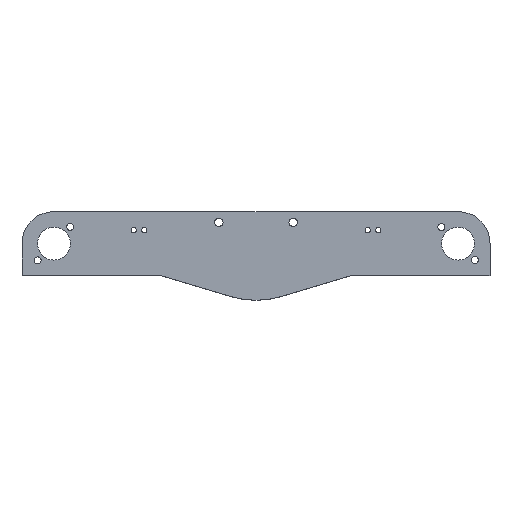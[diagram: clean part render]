
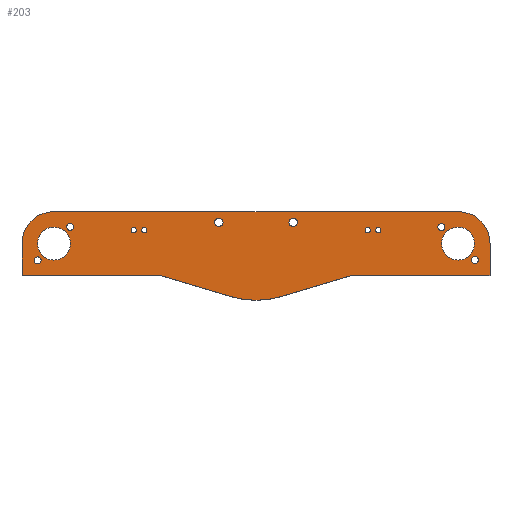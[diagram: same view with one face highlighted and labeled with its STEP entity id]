
A CAD part, top view. The second image highlights one B-rep face of the part: STEP entity #203.
In plain terms, the highlighted planar face has unit normal (0, 0, 1).
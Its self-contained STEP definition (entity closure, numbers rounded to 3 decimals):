
#32 = VERTEX_POINT('',#33);
#33 = CARTESIAN_POINT('',(0.,0.,30.));
#39 = EDGE_CURVE('',#32,#40,#42,.T.);
#40 = VERTEX_POINT('',#41);
#41 = CARTESIAN_POINT('',(0.,30.,30.));
#42 = LINE('',#43,#44);
#43 = CARTESIAN_POINT('',(0.,0.,30.));
#44 = VECTOR('',#45,1.);
#45 = DIRECTION('',(0.,1.,0.));
#128 = VERTEX_POINT('',#129);
#129 = CARTESIAN_POINT('',(30.,60.,30.));
#135 = EDGE_CURVE('',#40,#128,#136,.T.);
#136 = CIRCLE('',#137,30.);
#137 = AXIS2_PLACEMENT_3D('',#138,#139,#140);
#138 = CARTESIAN_POINT('',(30.,30.,30.));
#139 = DIRECTION('',(-0.,-0.,-1.));
#140 = DIRECTION('',(0.,-1.,0.));
#162 = VERTEX_POINT('',#163);
#163 = CARTESIAN_POINT('',(130.,0.,30.));
#169 = EDGE_CURVE('',#162,#32,#170,.T.);
#170 = LINE('',#171,#172);
#171 = CARTESIAN_POINT('',(130.,0.,30.));
#172 = VECTOR('',#173,1.);
#173 = DIRECTION('',(-1.,0.,0.));
#203 = ADVANCED_FACE('',(#204,#265,#276,#287,#298,#309,#320,#331,#342,
    #353,#364,#375,#386),#397,.T.);
#204 = FACE_BOUND('',#205,.T.);
#205 = EDGE_LOOP('',(#206,#207,#208,#216,#225,#233,#241,#249,#258,#264)
  );
#206 = ORIENTED_EDGE('',*,*,#39,.F.);
#207 = ORIENTED_EDGE('',*,*,#169,.F.);
#208 = ORIENTED_EDGE('',*,*,#209,.F.);
#209 = EDGE_CURVE('',#210,#162,#212,.T.);
#210 = VERTEX_POINT('',#211);
#211 = CARTESIAN_POINT('',(197.171,-20.,30.));
#212 = LINE('',#213,#214);
#213 = CARTESIAN_POINT('',(197.171,-20.,30.));
#214 = VECTOR('',#215,1.);
#215 = DIRECTION('',(-0.958,0.285,0.));
#216 = ORIENTED_EDGE('',*,*,#217,.T.);
#217 = EDGE_CURVE('',#210,#218,#220,.T.);
#218 = VERTEX_POINT('',#219);
#219 = CARTESIAN_POINT('',(242.829,-20.,30.));
#220 = CIRCLE('',#221,80.);
#221 = AXIS2_PLACEMENT_3D('',#222,#223,#224);
#222 = CARTESIAN_POINT('',(220.,56.673,30.));
#223 = DIRECTION('',(0.,0.,1.));
#224 = DIRECTION('',(1.,0.,0.));
#225 = ORIENTED_EDGE('',*,*,#226,.F.);
#226 = EDGE_CURVE('',#227,#218,#229,.T.);
#227 = VERTEX_POINT('',#228);
#228 = CARTESIAN_POINT('',(310.,0.,30.));
#229 = LINE('',#230,#231);
#230 = CARTESIAN_POINT('',(310.,0.,30.));
#231 = VECTOR('',#232,1.);
#232 = DIRECTION('',(-0.958,-0.285,0.));
#233 = ORIENTED_EDGE('',*,*,#234,.F.);
#234 = EDGE_CURVE('',#235,#227,#237,.T.);
#235 = VERTEX_POINT('',#236);
#236 = CARTESIAN_POINT('',(440.,0.,30.));
#237 = LINE('',#238,#239);
#238 = CARTESIAN_POINT('',(440.,0.,30.));
#239 = VECTOR('',#240,1.);
#240 = DIRECTION('',(-1.,0.,0.));
#241 = ORIENTED_EDGE('',*,*,#242,.F.);
#242 = EDGE_CURVE('',#243,#235,#245,.T.);
#243 = VERTEX_POINT('',#244);
#244 = CARTESIAN_POINT('',(440.,30.,30.));
#245 = LINE('',#246,#247);
#246 = CARTESIAN_POINT('',(440.,60.,30.));
#247 = VECTOR('',#248,1.);
#248 = DIRECTION('',(0.,-1.,0.));
#249 = ORIENTED_EDGE('',*,*,#250,.F.);
#250 = EDGE_CURVE('',#251,#243,#253,.T.);
#251 = VERTEX_POINT('',#252);
#252 = CARTESIAN_POINT('',(410.,60.,30.));
#253 = CIRCLE('',#254,30.);
#254 = AXIS2_PLACEMENT_3D('',#255,#256,#257);
#255 = CARTESIAN_POINT('',(410.,30.,30.));
#256 = DIRECTION('',(-0.,-0.,-1.));
#257 = DIRECTION('',(0.,-1.,0.));
#258 = ORIENTED_EDGE('',*,*,#259,.F.);
#259 = EDGE_CURVE('',#128,#251,#260,.T.);
#260 = LINE('',#261,#262);
#261 = CARTESIAN_POINT('',(0.,60.,30.));
#262 = VECTOR('',#263,1.);
#263 = DIRECTION('',(1.,0.,0.));
#264 = ORIENTED_EDGE('',*,*,#135,.F.);
#265 = FACE_BOUND('',#266,.T.);
#266 = EDGE_LOOP('',(#267));
#267 = ORIENTED_EDGE('',*,*,#268,.F.);
#268 = EDGE_CURVE('',#269,#269,#271,.T.);
#269 = VERTEX_POINT('',#270);
#270 = CARTESIAN_POINT('',(11.395,14.196,30.));
#271 = CIRCLE('',#272,3.3);
#272 = AXIS2_PLACEMENT_3D('',#273,#274,#275);
#273 = CARTESIAN_POINT('',(14.695,14.196,30.));
#274 = DIRECTION('',(0.,-0.,1.));
#275 = DIRECTION('',(-1.,0.,0.));
#276 = FACE_BOUND('',#277,.T.);
#277 = EDGE_LOOP('',(#278));
#278 = ORIENTED_EDGE('',*,*,#279,.T.);
#279 = EDGE_CURVE('',#280,#280,#282,.T.);
#280 = VERTEX_POINT('',#281);
#281 = CARTESIAN_POINT('',(45.5,30.,30.));
#282 = CIRCLE('',#283,15.5);
#283 = AXIS2_PLACEMENT_3D('',#284,#285,#286);
#284 = CARTESIAN_POINT('',(30.,30.,30.));
#285 = DIRECTION('',(0.,0.,-1.));
#286 = DIRECTION('',(1.,0.,0.));
#287 = FACE_BOUND('',#288,.T.);
#288 = EDGE_LOOP('',(#289));
#289 = ORIENTED_EDGE('',*,*,#290,.F.);
#290 = EDGE_CURVE('',#291,#291,#293,.T.);
#291 = VERTEX_POINT('',#292);
#292 = CARTESIAN_POINT('',(422.389,14.577,30.));
#293 = CIRCLE('',#294,3.3);
#294 = AXIS2_PLACEMENT_3D('',#295,#296,#297);
#295 = CARTESIAN_POINT('',(425.689,14.577,30.));
#296 = DIRECTION('',(0.,-0.,1.));
#297 = DIRECTION('',(-1.,0.,0.));
#298 = FACE_BOUND('',#299,.T.);
#299 = EDGE_LOOP('',(#300));
#300 = ORIENTED_EDGE('',*,*,#301,.T.);
#301 = EDGE_CURVE('',#302,#302,#304,.T.);
#302 = VERTEX_POINT('',#303);
#303 = CARTESIAN_POINT('',(425.5,30.,30.));
#304 = CIRCLE('',#305,15.5);
#305 = AXIS2_PLACEMENT_3D('',#306,#307,#308);
#306 = CARTESIAN_POINT('',(410.,30.,30.));
#307 = DIRECTION('',(0.,0.,-1.));
#308 = DIRECTION('',(1.,0.,0.));
#309 = FACE_BOUND('',#310,.T.);
#310 = EDGE_LOOP('',(#311));
#311 = ORIENTED_EDGE('',*,*,#312,.T.);
#312 = EDGE_CURVE('',#313,#313,#315,.T.);
#313 = VERTEX_POINT('',#314);
#314 = CARTESIAN_POINT('',(107.5,42.5,30.));
#315 = CIRCLE('',#316,2.5);
#316 = AXIS2_PLACEMENT_3D('',#317,#318,#319);
#317 = CARTESIAN_POINT('',(105.,42.5,30.));
#318 = DIRECTION('',(0.,0.,-1.));
#319 = DIRECTION('',(1.,0.,0.));
#320 = FACE_BOUND('',#321,.T.);
#321 = EDGE_LOOP('',(#322));
#322 = ORIENTED_EDGE('',*,*,#323,.T.);
#323 = EDGE_CURVE('',#324,#324,#326,.T.);
#324 = VERTEX_POINT('',#325);
#325 = CARTESIAN_POINT('',(117.5,42.5,30.));
#326 = CIRCLE('',#327,2.5);
#327 = AXIS2_PLACEMENT_3D('',#328,#329,#330);
#328 = CARTESIAN_POINT('',(115.,42.5,30.));
#329 = DIRECTION('',(0.,0.,-1.));
#330 = DIRECTION('',(1.,0.,0.));
#331 = FACE_BOUND('',#332,.T.);
#332 = EDGE_LOOP('',(#333));
#333 = ORIENTED_EDGE('',*,*,#334,.F.);
#334 = EDGE_CURVE('',#335,#335,#337,.T.);
#335 = VERTEX_POINT('',#336);
#336 = CARTESIAN_POINT('',(42.005,45.804,30.));
#337 = CIRCLE('',#338,3.3);
#338 = AXIS2_PLACEMENT_3D('',#339,#340,#341);
#339 = CARTESIAN_POINT('',(45.305,45.804,30.));
#340 = DIRECTION('',(0.,-0.,1.));
#341 = DIRECTION('',(-1.,0.,0.));
#342 = FACE_BOUND('',#343,.T.);
#343 = EDGE_LOOP('',(#344));
#344 = ORIENTED_EDGE('',*,*,#345,.T.);
#345 = EDGE_CURVE('',#346,#346,#348,.T.);
#346 = VERTEX_POINT('',#347);
#347 = CARTESIAN_POINT('',(189.,50.,30.));
#348 = CIRCLE('',#349,4.);
#349 = AXIS2_PLACEMENT_3D('',#350,#351,#352);
#350 = CARTESIAN_POINT('',(185.,50.,30.));
#351 = DIRECTION('',(0.,0.,-1.));
#352 = DIRECTION('',(1.,0.,0.));
#353 = FACE_BOUND('',#354,.T.);
#354 = EDGE_LOOP('',(#355));
#355 = ORIENTED_EDGE('',*,*,#356,.T.);
#356 = EDGE_CURVE('',#357,#357,#359,.T.);
#357 = VERTEX_POINT('',#358);
#358 = CARTESIAN_POINT('',(327.5,42.5,30.));
#359 = CIRCLE('',#360,2.5);
#360 = AXIS2_PLACEMENT_3D('',#361,#362,#363);
#361 = CARTESIAN_POINT('',(325.,42.5,30.));
#362 = DIRECTION('',(0.,0.,-1.));
#363 = DIRECTION('',(1.,0.,0.));
#364 = FACE_BOUND('',#365,.T.);
#365 = EDGE_LOOP('',(#366));
#366 = ORIENTED_EDGE('',*,*,#367,.T.);
#367 = EDGE_CURVE('',#368,#368,#370,.T.);
#368 = VERTEX_POINT('',#369);
#369 = CARTESIAN_POINT('',(337.5,42.5,30.));
#370 = CIRCLE('',#371,2.5);
#371 = AXIS2_PLACEMENT_3D('',#372,#373,#374);
#372 = CARTESIAN_POINT('',(335.,42.5,30.));
#373 = DIRECTION('',(0.,0.,-1.));
#374 = DIRECTION('',(1.,0.,0.));
#375 = FACE_BOUND('',#376,.T.);
#376 = EDGE_LOOP('',(#377));
#377 = ORIENTED_EDGE('',*,*,#378,.T.);
#378 = EDGE_CURVE('',#379,#379,#381,.T.);
#379 = VERTEX_POINT('',#380);
#380 = CARTESIAN_POINT('',(259.,50.,30.));
#381 = CIRCLE('',#382,4.);
#382 = AXIS2_PLACEMENT_3D('',#383,#384,#385);
#383 = CARTESIAN_POINT('',(255.,50.,30.));
#384 = DIRECTION('',(0.,0.,-1.));
#385 = DIRECTION('',(1.,0.,0.));
#386 = FACE_BOUND('',#387,.T.);
#387 = EDGE_LOOP('',(#388));
#388 = ORIENTED_EDGE('',*,*,#389,.F.);
#389 = EDGE_CURVE('',#390,#390,#392,.T.);
#390 = VERTEX_POINT('',#391);
#391 = CARTESIAN_POINT('',(391.011,45.423,30.));
#392 = CIRCLE('',#393,3.3);
#393 = AXIS2_PLACEMENT_3D('',#394,#395,#396);
#394 = CARTESIAN_POINT('',(394.311,45.423,30.));
#395 = DIRECTION('',(0.,-0.,1.));
#396 = DIRECTION('',(-1.,0.,0.));
#397 = PLANE('',#398);
#398 = AXIS2_PLACEMENT_3D('',#399,#400,#401);
#399 = CARTESIAN_POINT('',(220.,27.407,30.));
#400 = DIRECTION('',(0.,0.,1.));
#401 = DIRECTION('',(1.,0.,0.));
